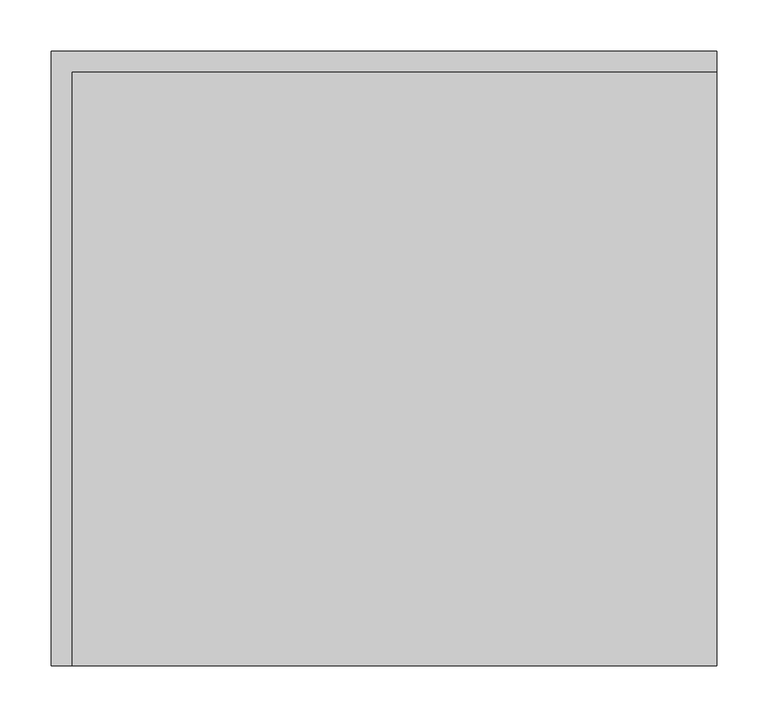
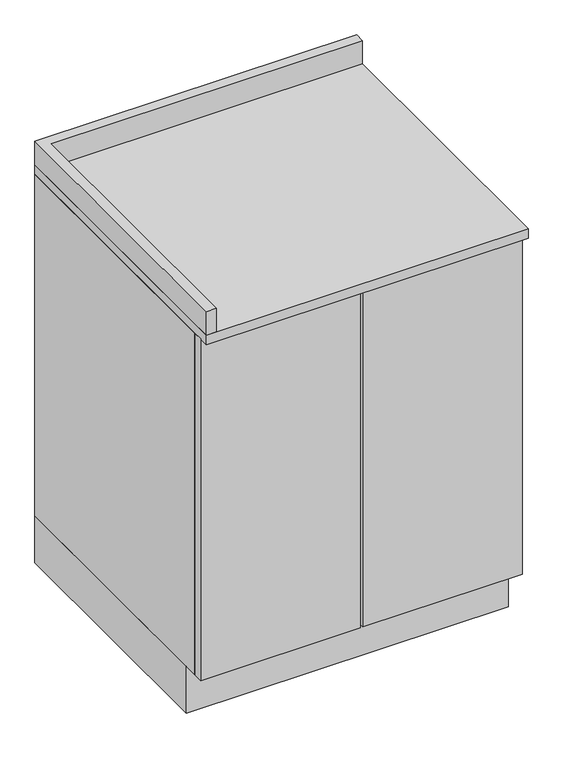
"""IFC4 building model written with IfcOpenShell, lengths in millimetres: furniture geometry, ARQ_MOB_BAÑO-01 : MUEBLE_BAÑO-01."""

from ifc_helpers import new_model, si_unit, frame, origin, origin_with_axes, place, context, project, spatial, polyline, outline, extrude, source, transform, mapped, element, save


def furniture_bf1a8815(model_context):
    return source(origin(), model_context, "Body", "SweptSolid", [
        extrude(outline(polyline([(42.2003264, -560.0), (42.2003264, -580.0), (-280.2996736, -580.0), (-280.2996736, -560.0), (42.2003264, -560.0)])), frame((0.0, 0.0, 100.0), z_axis=(0.0, 0.0, 1.0), x_axis=(1.0, 0.0, 0.0)), (0.0, 0.0, 1.0), 730.0),
        extrude(outline(polyline([(369.7003264, -560.0), (369.7003264, -580.0), (47.2003264, -580.0), (47.2003264, -560.0), (369.7003264, -560.0)])), frame((0.0, 0.0, 100.0), z_axis=(0.0, 0.0, 1.0), x_axis=(1.0, 0.0, 0.0)), (0.0, 0.0, 1.0), 730.0),
        extrude(outline(polyline([(-260.2996736, -20.0), (349.7003264, -20.0), (349.7003264, -560.0), (-260.2996736, -560.0), (-260.2996736, -20.0)])), frame((0.0, 0.0, 100.0), z_axis=(0.0, 0.0, 1.0), x_axis=(1.0, 0.0, 0.0)), (0.0, 0.0, 1.0), 20.0),
        extrude(outline(polyline([(369.7003264, 0.0), (369.7003264, -560.0), (349.7003264, -560.0), (349.7003264, -20.0), (-260.2996736, -20.0), (-260.2996736, -560.0), (-280.2996736, -560.0), (-280.2996736, 0.0), (369.7003264, 0.0)])), frame((0.0, 0.0, 100.0), z_axis=(0.0, 0.0, 1.0), x_axis=(1.0, 0.0, 0.0)), (0.0, 0.0, 1.0), 730.0),
        extrude(outline(polyline([(369.7003264, 0.0), (369.7003264, -530.0), (-280.2996736, -530.0), (-280.2996736, 0.0), (369.7003264, 0.0)])), origin_with_axes(), (0.0, 0.0, 1.0), 100.0),
        extrude(outline(polyline([(369.7003264, 0.0), (369.7003264, -20.0), (-260.2996736, -20.0), (-260.2996736, -600.0), (-280.2996736, -600.0), (-280.2996736, 0.0), (369.7003264, 0.0)])), frame((0.0, 0.0, 850.0), z_axis=(0.0, 0.0, 1.0), x_axis=(1.0, 0.0, 0.0)), (0.0, 0.0, 1.0), 50.0),
        extrude(outline(polyline([(369.7003264, 0.0), (369.7003264, -600.0), (-280.2996736, -600.0), (-280.2996736, 0.0), (369.7003264, 0.0)])), frame((0.0, 0.0, 830.0), z_axis=(0.0, 0.0, 1.0), x_axis=(1.0, 0.0, 0.0)), (0.0, 0.0, 1.0), 20.0),
    ])


if __name__ == "__main__":
    model = new_model("IFC4")
    model_context = context("Model", 3, world=origin())
    ifc_project = project(units=[si_unit("LENGTHUNIT", "METRE", prefix="MILLI")], contexts=[model_context])
    site = spatial("IfcSite", under=ifc_project)
    building = spatial("IfcBuilding", under=site)
    placement = place(None, origin())
    furniture_shape = furniture_bf1a8815(model_context)
    element("IfcFurniture", 1, ObjectType="ARQ_MOB_BAÑO-01 : MUEBLE_BAÑO-01", at=placement, inside=building, context=model_context, shape_type="MappedRepresentation", body=[
        mapped(furniture_shape, transform((0.0, 0.0, 0.0), x_axis=(1.0, 0.0, 0.0), y_axis=(0.0, 1.0, 0.0), z_axis=(0.0, 0.0, 1.0))),
    ])
    save(model, "model.ifc")
